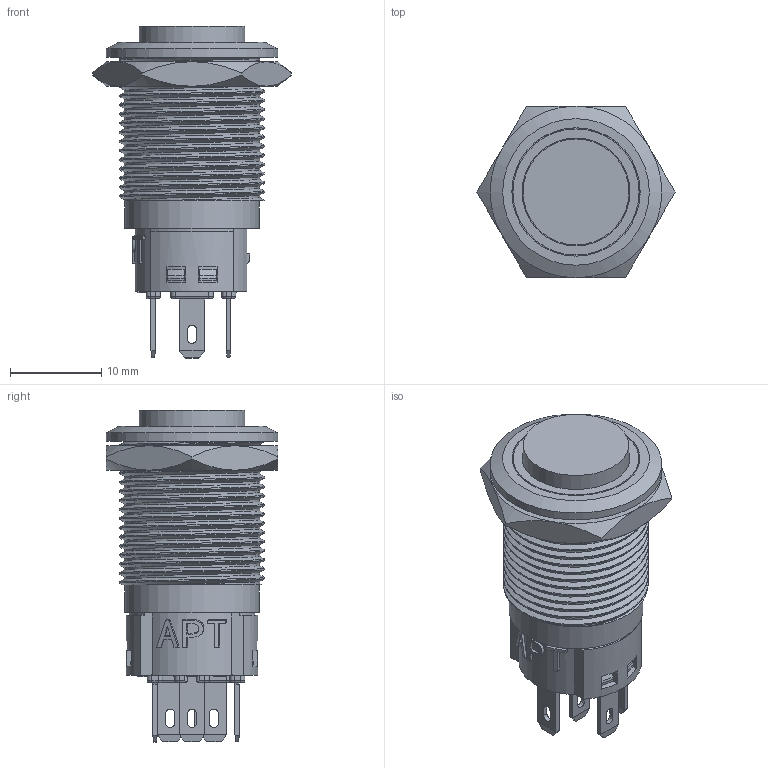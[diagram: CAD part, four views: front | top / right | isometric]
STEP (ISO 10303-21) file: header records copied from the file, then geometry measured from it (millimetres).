
FILE_DESCRIPTION(/* description */ (''),/* implementation_level */ '2;1');
FILE_NAME(/* name */ 'FM16N-SHP-11D1.prt.stp',/* time_stamp */ '2020-08-03T17:01:49+08:00',/* author */ (''),/* organization */ (''),/* preprocessor_version */ 'ST-DEVELOPER v16.7',/* originating_system */ 'SIEMENS PLM Software NX 12.0',/* authorisation */ '');
FILE_SCHEMA (('AUTOMOTIVE_DESIGN { 1 0 10303 214 3 1 1 1 }'));
Length unit declared in the file: millimetre
Products named in the file (1): Admi2AF0CFF0h9ld
Bounding box: 21.71 x 18.8 x 36.35 mm (x, y, z)
Volume: 2736.4 mm3; surface area: 6903.4 mm2
Topology: 4 solids, 4 shells, 960 faces, 2739 edges, 1778 vertices
Faces by surface type: plane 647, cylinder 167, torus 50, extrusion 43, cone 39, bspline 14
Full cylindrical faces by diameter (mm): 1.2 x2, 2 x3, 5 x1, 7 x1, 7.5 x1, 11 x1, 11.2 x1, 11.6 x1, 11.8 x1, 13.8 x1, 13.9 x1, 14.05 x1, 14.7 x1, 18.8 x1
Entity records: 38675 total; most frequent: CARTESIAN_POINT 9970, ORIENTED_EDGE 5416, DIRECTION 4802, EDGE_CURVE 2708, VECTOR 1930, LINE 1887, VERTEX_POINT 1769, AXIS2_PLACEMENT_3D 1436
